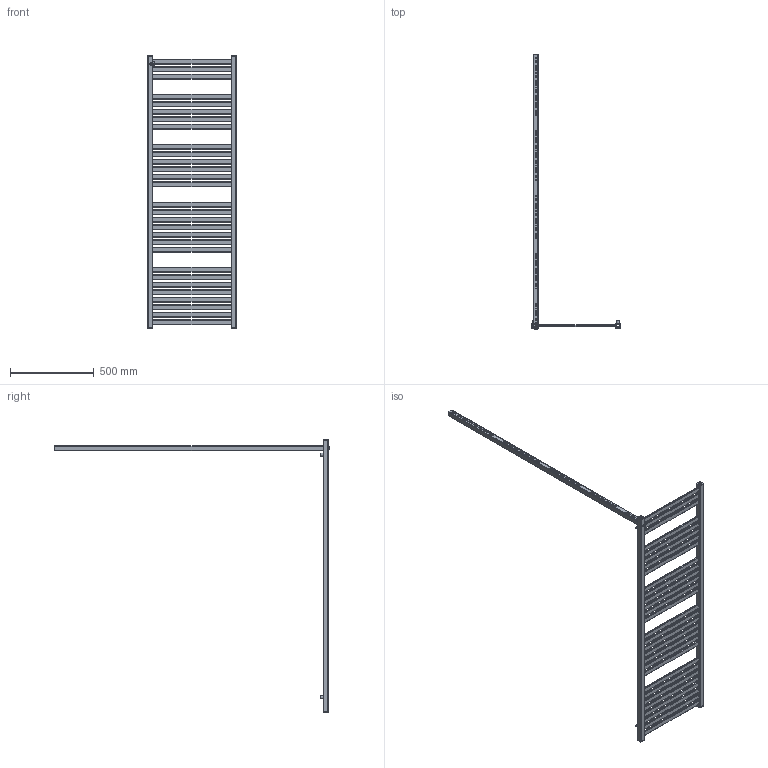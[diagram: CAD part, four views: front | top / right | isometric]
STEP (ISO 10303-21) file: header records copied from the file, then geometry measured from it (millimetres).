
FILE_DESCRIPTION( ( 'Unknown' ), '1' );
FILE_NAME( 'D:/Alplast sp. j/Witryna zespoBu - Projekty/Archiwum/Grzejniki Archiwum/Projekty/STANDARD/AK-EP/AK7-500EP.stp', 'Unknown', ( 'Unknown' ), ( 'Unknown' ), 'PSStep 10.1', 'Unknown', ' ' );
FILE_SCHEMA( ( 'AUTOMOTIVE_DESIGN { 1 0 10303 214 1 1 1 1 }' ) );
Length unit declared in the file: millimetre
Products named in the file (5): Assem1; zaslepka kwadrat otwor; AK7-EPEL; kana³  poziomy 30x10  500; mocowanie
Bounding box: 530 x 1644 x 1630.13 mm (x, y, z)
Volume: 2326161.9 mm3; surface area: 3117135.9 mm2
Topology: 43 solids, 43 shells, 1310 faces, 3642 edges, 2428 vertices
Faces by surface type: plane 748, cylinder 552, torus 10
Full cylindrical faces by diameter (mm): 16 x5, 18 x5, 18.631 x5, 23 x5
Entity records: 12408 total; most frequent: DIRECTION 1784, CARTESIAN_POINT 1732, ORIENTED_EDGE 1676, EDGE_CURVE 838, AXIS2_PLACEMENT_3D 614, VERTEX_POINT 562, LINE 556, VECTOR 556
